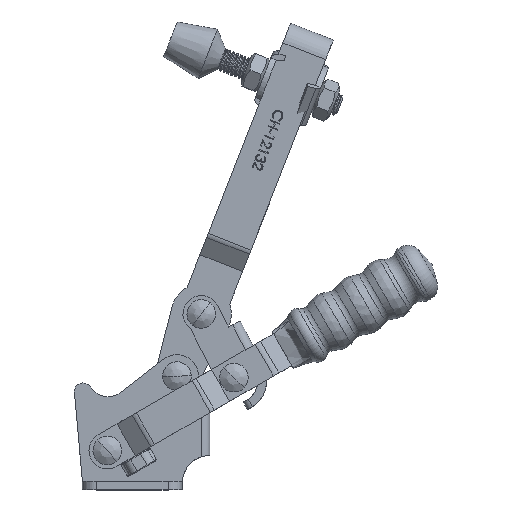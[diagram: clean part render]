
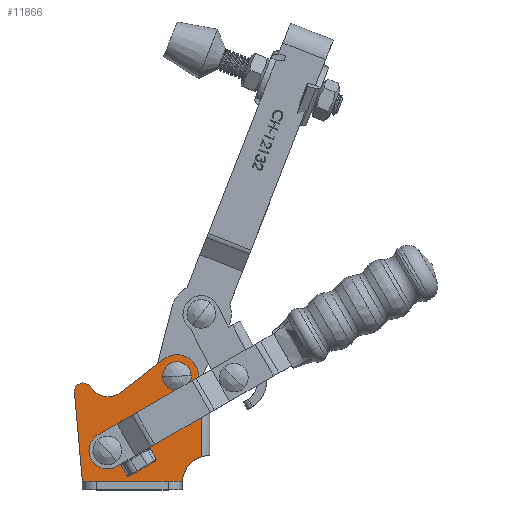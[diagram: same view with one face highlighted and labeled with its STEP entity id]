
A CAD part, top view. The second image highlights one B-rep face of the part: STEP entity #11866.
In plain terms, the highlighted planar face has unit normal (0, 0, 1).
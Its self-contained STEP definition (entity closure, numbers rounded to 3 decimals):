
#374=B_SPLINE_CURVE_WITH_KNOTS('',3,(#16537,#16538,#16539,#16540),
 .UNSPECIFIED.,.F.,.F.,(4,4),(-0.085,0.),.UNSPECIFIED.);
#375=B_SPLINE_CURVE_WITH_KNOTS('',3,(#16544,#16545,#16546,#16547),
 .UNSPECIFIED.,.F.,.F.,(4,4),(-0.278,-0.193),
 .UNSPECIFIED.);
#376=B_SPLINE_CURVE_WITH_KNOTS('',3,(#16551,#16552,#16553,#16554),
 .UNSPECIFIED.,.F.,.F.,(4,4),(-0.085,0.),.UNSPECIFIED.);
#377=B_SPLINE_CURVE_WITH_KNOTS('',3,(#16557,#16558,#16559,#16560),
 .UNSPECIFIED.,.F.,.F.,(4,4),(-0.278,-0.193),
 .UNSPECIFIED.);
#838=FACE_BOUND('',#1881,.T.);
#839=FACE_BOUND('',#1882,.T.);
#840=FACE_BOUND('',#1883,.T.);
#841=FACE_BOUND('',#1884,.T.);
#917=PLANE('',#12810);
#1217=FACE_OUTER_BOUND('',#1880,.T.);
#1880=EDGE_LOOP('',(#8122,#8123,#8124,#8125,#8126,#8127,#8128,#8129,#8130,
#8131,#8132,#8133));
#1881=EDGE_LOOP('',(#8134,#8135));
#1882=EDGE_LOOP('',(#8136,#8137));
#1883=EDGE_LOOP('',(#8138,#8139));
#1884=EDGE_LOOP('',(#8140,#8141,#8142,#8143,#8144,#8145,#8146,#8147));
#2629=LINE('',#16514,#3621);
#2630=LINE('',#16516,#3622);
#2631=LINE('',#16520,#3623);
#2632=LINE('',#16524,#3624);
#2633=LINE('',#16528,#3625);
#2634=LINE('',#16531,#3626);
#2635=LINE('',#16532,#3627);
#2636=LINE('',#16535,#3628);
#2637=LINE('',#16542,#3629);
#2638=LINE('',#16549,#3630);
#2639=LINE('',#16556,#3631);
#3621=VECTOR('',#13774,1000.);
#3622=VECTOR('',#13775,1000.);
#3623=VECTOR('',#13778,1000.);
#3624=VECTOR('',#13781,1000.);
#3625=VECTOR('',#13784,1000.);
#3626=VECTOR('',#13787,1000.);
#3627=VECTOR('',#13788,1000.);
#3628=VECTOR('',#13789,1000.);
#3629=VECTOR('',#13790,1000.);
#3630=VECTOR('',#13791,1000.);
#3631=VECTOR('',#13792,1000.);
#4616=CIRCLE('',#12785,3.);
#4618=CIRCLE('',#12788,1.95);
#4621=CIRCLE('',#12791,1.95);
#4622=CIRCLE('',#12793,3.2);
#4625=CIRCLE('',#12796,3.2);
#4626=CIRCLE('',#12798,3.2);
#4629=CIRCLE('',#12801,3.2);
#4636=CIRCLE('',#12811,9.5);
#4637=CIRCLE('',#12812,4.);
#4638=CIRCLE('',#12813,7.5);
#4639=CIRCLE('',#12814,7.);
#4981=VERTEX_POINT('',#16434);
#4982=VERTEX_POINT('',#16435);
#4985=VERTEX_POINT('',#16443);
#4986=VERTEX_POINT('',#16444);
#4989=VERTEX_POINT('',#16453);
#4990=VERTEX_POINT('',#16454);
#4993=VERTEX_POINT('',#16463);
#4994=VERTEX_POINT('',#16464);
#5015=VERTEX_POINT('',#16512);
#5016=VERTEX_POINT('',#16513);
#5017=VERTEX_POINT('',#16515);
#5018=VERTEX_POINT('',#16517);
#5019=VERTEX_POINT('',#16519);
#5020=VERTEX_POINT('',#16521);
#5021=VERTEX_POINT('',#16523);
#5022=VERTEX_POINT('',#16525);
#5023=VERTEX_POINT('',#16527);
#5024=VERTEX_POINT('',#16529);
#5025=VERTEX_POINT('',#16533);
#5026=VERTEX_POINT('',#16534);
#5027=VERTEX_POINT('',#16536);
#5028=VERTEX_POINT('',#16541);
#5029=VERTEX_POINT('',#16543);
#5030=VERTEX_POINT('',#16548);
#5031=VERTEX_POINT('',#16550);
#5032=VERTEX_POINT('',#16555);
#6228=EDGE_CURVE('',#4981,#4982,#4616,.T.);
#6232=EDGE_CURVE('',#4985,#4986,#4618,.T.);
#6236=EDGE_CURVE('',#4986,#4985,#4621,.T.);
#6237=EDGE_CURVE('',#4989,#4990,#4622,.T.);
#6241=EDGE_CURVE('',#4990,#4989,#4625,.T.);
#6242=EDGE_CURVE('',#4993,#4994,#4626,.T.);
#6246=EDGE_CURVE('',#4994,#4993,#4629,.T.);
#6266=EDGE_CURVE('',#5015,#5016,#2629,.T.);
#6267=EDGE_CURVE('',#5017,#5015,#2630,.T.);
#6268=EDGE_CURVE('',#5017,#5018,#4636,.T.);
#6269=EDGE_CURVE('',#5018,#5019,#2631,.T.);
#6270=EDGE_CURVE('',#5019,#5020,#4637,.T.);
#6271=EDGE_CURVE('',#5020,#5021,#2632,.T.);
#6272=EDGE_CURVE('',#5021,#5022,#4638,.T.);
#6273=EDGE_CURVE('',#5022,#5023,#2633,.T.);
#6274=EDGE_CURVE('',#5023,#5024,#4639,.T.);
#6275=EDGE_CURVE('',#5024,#4981,#2634,.T.);
#6276=EDGE_CURVE('',#4982,#5016,#2635,.T.);
#6277=EDGE_CURVE('',#5025,#5026,#2636,.T.);
#6278=EDGE_CURVE('',#5025,#5027,#374,.T.);
#6279=EDGE_CURVE('',#5027,#5028,#2637,.T.);
#6280=EDGE_CURVE('',#5028,#5029,#375,.T.);
#6281=EDGE_CURVE('',#5030,#5029,#2638,.T.);
#6282=EDGE_CURVE('',#5030,#5031,#376,.T.);
#6283=EDGE_CURVE('',#5031,#5032,#2639,.T.);
#6284=EDGE_CURVE('',#5032,#5026,#377,.T.);
#8122=ORIENTED_EDGE('',*,*,#6266,.F.);
#8123=ORIENTED_EDGE('',*,*,#6267,.F.);
#8124=ORIENTED_EDGE('',*,*,#6268,.T.);
#8125=ORIENTED_EDGE('',*,*,#6269,.T.);
#8126=ORIENTED_EDGE('',*,*,#6270,.T.);
#8127=ORIENTED_EDGE('',*,*,#6271,.T.);
#8128=ORIENTED_EDGE('',*,*,#6272,.T.);
#8129=ORIENTED_EDGE('',*,*,#6273,.T.);
#8130=ORIENTED_EDGE('',*,*,#6274,.T.);
#8131=ORIENTED_EDGE('',*,*,#6275,.T.);
#8132=ORIENTED_EDGE('',*,*,#6228,.T.);
#8133=ORIENTED_EDGE('',*,*,#6276,.T.);
#8134=ORIENTED_EDGE('',*,*,#6237,.F.);
#8135=ORIENTED_EDGE('',*,*,#6241,.F.);
#8136=ORIENTED_EDGE('',*,*,#6242,.F.);
#8137=ORIENTED_EDGE('',*,*,#6246,.F.);
#8138=ORIENTED_EDGE('',*,*,#6232,.F.);
#8139=ORIENTED_EDGE('',*,*,#6236,.F.);
#8140=ORIENTED_EDGE('',*,*,#6277,.F.);
#8141=ORIENTED_EDGE('',*,*,#6278,.T.);
#8142=ORIENTED_EDGE('',*,*,#6279,.T.);
#8143=ORIENTED_EDGE('',*,*,#6280,.T.);
#8144=ORIENTED_EDGE('',*,*,#6281,.F.);
#8145=ORIENTED_EDGE('',*,*,#6282,.T.);
#8146=ORIENTED_EDGE('',*,*,#6283,.T.);
#8147=ORIENTED_EDGE('',*,*,#6284,.T.);
#11866=ADVANCED_FACE('',(#1217,#838,#839,#840,#841),#917,.T.);
#12785=AXIS2_PLACEMENT_3D('',#16436,#13704,#13705);
#12788=AXIS2_PLACEMENT_3D('',#16445,#13712,#13713);
#12791=AXIS2_PLACEMENT_3D('',#16451,#13719,#13720);
#12793=AXIS2_PLACEMENT_3D('',#16455,#13723,#13724);
#12796=AXIS2_PLACEMENT_3D('',#16461,#13730,#13731);
#12798=AXIS2_PLACEMENT_3D('',#16465,#13734,#13735);
#12801=AXIS2_PLACEMENT_3D('',#16471,#13741,#13742);
#12810=AXIS2_PLACEMENT_3D('',#16511,#13772,#13773);
#12811=AXIS2_PLACEMENT_3D('',#16518,#13776,#13777);
#12812=AXIS2_PLACEMENT_3D('',#16522,#13779,#13780);
#12813=AXIS2_PLACEMENT_3D('',#16526,#13782,#13783);
#12814=AXIS2_PLACEMENT_3D('',#16530,#13785,#13786);
#13704=DIRECTION('center_axis',(0.,0.,1.));
#13705=DIRECTION('ref_axis',(1.,0.,0.));
#13712=DIRECTION('center_axis',(0.,0.,1.));
#13713=DIRECTION('ref_axis',(1.,0.,0.));
#13719=DIRECTION('center_axis',(0.,0.,1.));
#13720=DIRECTION('ref_axis',(1.,0.,0.));
#13723=DIRECTION('center_axis',(0.,0.,1.));
#13724=DIRECTION('ref_axis',(1.,0.,0.));
#13730=DIRECTION('center_axis',(0.,0.,1.));
#13731=DIRECTION('ref_axis',(1.,0.,0.));
#13734=DIRECTION('center_axis',(0.,0.,1.));
#13735=DIRECTION('ref_axis',(1.,0.,0.));
#13741=DIRECTION('center_axis',(0.,0.,1.));
#13742=DIRECTION('ref_axis',(1.,0.,0.));
#13772=DIRECTION('center_axis',(0.,0.,1.));
#13773=DIRECTION('ref_axis',(1.,0.,0.));
#13774=DIRECTION('',(-1.,0.,0.));
#13775=DIRECTION('',(0.,1.,0.));
#13776=DIRECTION('center_axis',(0.,0.,-1.));
#13777=DIRECTION('ref_axis',(1.,0.,0.));
#13778=DIRECTION('',(0.,1.,0.));
#13779=DIRECTION('center_axis',(0.,0.,-1.));
#13780=DIRECTION('ref_axis',(1.,0.,0.));
#13781=DIRECTION('',(0.,1.,0.));
#13782=DIRECTION('center_axis',(0.,0.,1.));
#13783=DIRECTION('ref_axis',(1.,0.,0.));
#13784=DIRECTION('',(-0.792,-0.611,0.));
#13785=DIRECTION('center_axis',(0.,0.,-1.));
#13786=DIRECTION('ref_axis',(1.,0.,0.));
#13787=DIRECTION('',(-0.677,0.736,0.));
#13788=DIRECTION('',(0.09,-0.996,0.));
#13789=DIRECTION('',(0.866,0.5,0.));
#13790=DIRECTION('',(-0.5,0.866,0.));
#13791=DIRECTION('',(-0.866,-0.5,0.));
#13792=DIRECTION('',(0.5,-0.866,0.));
#16434=CARTESIAN_POINT('',(-32.494,36.33,12.));
#16435=CARTESIAN_POINT('',(-37.691,34.031,12.));
#16436=CARTESIAN_POINT('Origin',(-34.703,34.3,12.));
#16443=CARTESIAN_POINT('',(-6.55,24.2,12.));
#16444=CARTESIAN_POINT('',(-2.65,24.2,12.));
#16445=CARTESIAN_POINT('Origin',(-4.6,24.2,12.));
#16451=CARTESIAN_POINT('Origin',(-4.6,24.2,12.));
#16453=CARTESIAN_POINT('',(-29.4,13.7,12.));
#16454=CARTESIAN_POINT('',(-23.,13.7,12.));
#16455=CARTESIAN_POINT('Origin',(-26.2,13.7,12.));
#16461=CARTESIAN_POINT('Origin',(-26.2,13.7,12.));
#16463=CARTESIAN_POINT('',(-5.1,39.7,12.));
#16464=CARTESIAN_POINT('',(1.3,39.7,12.));
#16465=CARTESIAN_POINT('Origin',(-1.9,39.7,12.));
#16471=CARTESIAN_POINT('Origin',(-1.9,39.7,12.));
#16511=CARTESIAN_POINT('Origin',(9.5,2.5,12.));
#16512=CARTESIAN_POINT('',(0.,3.,12.));
#16513=CARTESIAN_POINT('',(-34.9,3.,12.));
#16514=CARTESIAN_POINT('',(0.,3.,12.));
#16515=CARTESIAN_POINT('',(0.,2.5,12.));
#16516=CARTESIAN_POINT('',(0.,0.,12.));
#16517=CARTESIAN_POINT('',(6.6,11.547,12.));
#16518=CARTESIAN_POINT('Origin',(9.5,2.5,12.));
#16519=CARTESIAN_POINT('',(6.6,35.354,12.));
#16520=CARTESIAN_POINT('',(6.6,34.,12.));
#16521=CARTESIAN_POINT('',(5.6,38.,12.));
#16522=CARTESIAN_POINT('Origin',(9.6,38.,12.));
#16523=CARTESIAN_POINT('',(5.6,39.7,12.));
#16524=CARTESIAN_POINT('',(5.6,39.7,12.));
#16525=CARTESIAN_POINT('',(-6.481,45.639,12.));
#16526=CARTESIAN_POINT('Origin',(-1.9,39.7,12.));
#16527=CARTESIAN_POINT('',(-21.625,33.957,12.));
#16528=CARTESIAN_POINT('',(-21.625,33.957,12.));
#16529=CARTESIAN_POINT('',(-31.053,34.763,12.));
#16530=CARTESIAN_POINT('Origin',(-25.9,39.5,12.));
#16531=CARTESIAN_POINT('',(-32.494,36.33,12.));
#16532=CARTESIAN_POINT('',(-34.9,3.,12.));
#16533=CARTESIAN_POINT('',(-18.317,4.914,12.));
#16534=CARTESIAN_POINT('',(-9.583,9.956,12.));
#16535=CARTESIAN_POINT('',(-18.28,4.935,12.));
#16536=CARTESIAN_POINT('',(-19.186,4.758,12.));
#16537=CARTESIAN_POINT('Ctrl Pts',(-18.317,4.914,12.));
#16538=CARTESIAN_POINT('Ctrl Pts',(-18.562,4.772,12.));
#16539=CARTESIAN_POINT('Ctrl Pts',(-18.903,4.765,12.));
#16540=CARTESIAN_POINT('Ctrl Pts',(-19.186,4.758,12.));
#16541=CARTESIAN_POINT('',(-21.386,8.569,12.));
#16542=CARTESIAN_POINT('',(-21.536,8.829,12.));
#16543=CARTESIAN_POINT('',(-20.817,9.244,12.));
#16544=CARTESIAN_POINT('Ctrl Pts',(-21.386,8.569,12.));
#16545=CARTESIAN_POINT('Ctrl Pts',(-21.239,8.811,12.));
#16546=CARTESIAN_POINT('Ctrl Pts',(-21.062,9.102,12.));
#16547=CARTESIAN_POINT('Ctrl Pts',(-20.817,9.244,12.));
#16548=CARTESIAN_POINT('',(-12.083,14.286,12.));
#16549=CARTESIAN_POINT('',(-20.78,9.265,12.));
#16550=CARTESIAN_POINT('',(-11.214,14.442,12.));
#16551=CARTESIAN_POINT('Ctrl Pts',(-12.083,14.286,12.));
#16552=CARTESIAN_POINT('Ctrl Pts',(-11.838,14.428,12.));
#16553=CARTESIAN_POINT('Ctrl Pts',(-11.497,14.435,12.));
#16554=CARTESIAN_POINT('Ctrl Pts',(-11.214,14.442,12.));
#16555=CARTESIAN_POINT('',(-9.014,10.631,12.));
#16556=CARTESIAN_POINT('',(-8.864,10.371,12.));
#16557=CARTESIAN_POINT('Ctrl Pts',(-9.014,10.631,12.));
#16558=CARTESIAN_POINT('Ctrl Pts',(-9.161,10.389,12.));
#16559=CARTESIAN_POINT('Ctrl Pts',(-9.338,10.098,12.));
#16560=CARTESIAN_POINT('Ctrl Pts',(-9.583,9.956,12.));
